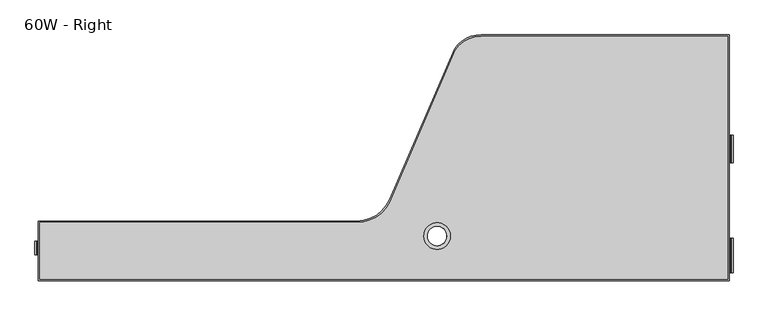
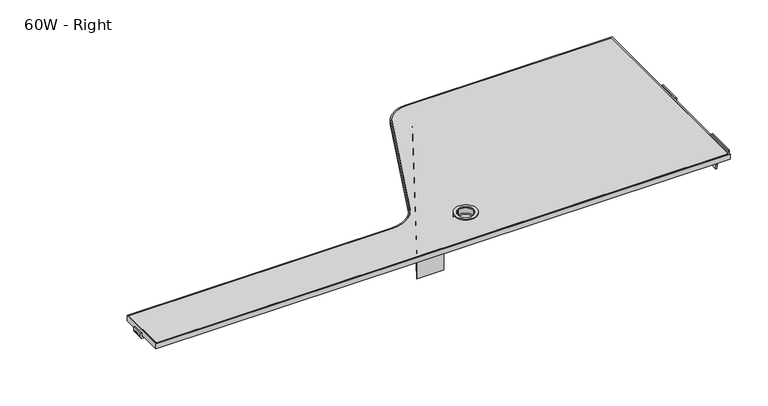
"""IFC4 building model written with IfcOpenShell, lengths in millimetres: furniture geometry, Steelcase Turnstone - Bivi - Table - Dual Top - Upper : 60W - Right."""

from ifc_helpers import new_model, si_unit, point, frame, frame_2d, origin, place, context, project, spatial, polyline, circle_curve, trimmed, segment, composite_curve, outline, extrude, faceted_brep, source, transform, mapped, element, save
from ifc_brep_helpers import plane_surface, cylinder_surface, revolved_surface, advanced_brep


def furniture_60w_right_09d68f9b(model_context):
    return source(origin(), model_context, "Body", "SolidModel", [
        faceted_brep([(899.5366315, -798.3804985, 984.3365257), (899.5366315, -798.3804985, 1041.4865257), (829.8016381, -798.3804985, 1041.4865257), (829.8016381, -798.3804985, 984.3365257), (1094.9332275, -353.2724638, 1039.9118156), (1076.966961, -353.2724638, 1039.9118156), (1076.966961, -353.2724638, 1008.3955413), (1094.9332275, -353.2724638, 1008.3955413), (1094.9332275, -353.2724638, 1007.3133509), (1074.8232345, -353.2724638, 1007.3133509), (1074.8232345, -353.2724638, 1041.4865257), (1094.9332275, -353.2724638, 1041.4865257)], [[[0, 1, 2, 3]], [[4, 5, 6, 7, 8, 9, 10, 11]], [[4, 0, 5]], [[5, 0, 6]], [[8, 0, 3, 9]], [[6, 0, 7]], [[7, 0, 8]], [[9, 3, 2, 10]], [[10, 2, 1, 11]], [[11, 1, 0, 4]]]),
        faceted_brep([(1598.4924133, -298.0312383, 1041.4865257), (1598.4924133, -353.2724638, 1041.4865257), (1598.4924133, -353.2724638, 1010.7646869), (1598.4924133, -337.4886594, 1010.7646869), (1598.4924133, -309.9526244, 1031.5145776), (1598.4924133, -309.9526244, 1040.1793583), (1598.4924133, -298.0312383, 1040.1793583), (1094.9332275, -298.0312383, 1041.4865257), (1094.9332275, -313.0049832, 1041.4865257), (1077.0049901, -353.2724638, 1041.4865257), (1077.0049901, -353.2724638, 1010.7646869), (1084.0323926, -337.4886594, 1010.7646869), (1094.9332275, -313.0049832, 1029.2144603), (1094.9332275, -309.9526244, 1031.5145776), (1094.9332275, -309.9526244, 1040.1793583), (1094.9332275, -298.0312383, 1040.1793583)], [[[0, 1, 2, 3, 4, 5, 6]], [[0, 7, 8, 9, 1]], [[1, 9, 10, 2]], [[2, 10, 11, 3]], [[3, 11, 12, 13, 4]], [[4, 13, 14, 5]], [[5, 14, 15, 6]], [[6, 15, 7, 0]], [[8, 7, 15, 14, 13, 12]], [[12, 11, 10, 9, 8]]]),
        extrude(outline(composite_curve([segment(polyline([(1043.0122331, 146.3611724), (1052.5780574, 146.3611724), (1052.5780574, 143.3229857), (1043.4087962, 143.3229857)]), True, "CONTINUOUS"), segment(trimmed(circle_curve(frame_2d((1043.4087962, 148.5250221)), 5.2020364), [point((1043.4087962, 143.3229857))], [point((1038.2067598, 148.5250221))], False, "CARTESIAN"), True, "CONTINUOUS"), segment(polyline([(1038.2067598, 148.5250221), (1038.2067598, 171.0287862), (1041.2445831, 171.0287862), (1041.2445831, 148.1288223)]), True, "CONTINUOUS"), segment(trimmed(circle_curve(frame_2d((1043.0122331, 148.1288223)), 1.7676499), [point((1041.2445831, 148.1288223))], [point((1043.0122331, 146.3611724))], True, "CARTESIAN"), True, "CONTINUOUS")], self_intersect=False)), frame((0.0, -759.6593832, 0.0), z_axis=(0.0, 1.0, 0.0), x_axis=(0.0, 0.0, 1.0)), (0.0, 0.0, 1.0), 28.5750242),
        extrude(outline(composite_curve([segment(polyline([(153.4, -691.0157049), (829.8016381, -691.0157049)]), True, "CONTINUOUS"), segment(trimmed(circle_curve(frame_2d((829.8016381, -612.4624834)), 78.5532215), [point((829.8016381, -691.0157049))], [point((899.5366315, -648.623779))], True, "CARTESIAN"), True, "CONTINUOUS"), segment(polyline([(899.5366315, -648.623779), (1039.5613504, -323.6592897)]), True, "CONTINUOUS"), segment(trimmed(circle_curve(frame_2d((1094.9332275, -360.8351796)), 66.6940145), [point((1039.5613504, -323.6592897))], [point((1094.9332275, -294.1411651))], False, "CARTESIAN"), True, "CONTINUOUS"), segment(polyline([(1094.9332275, -294.1411651), (1620.25, -294.1411651), (1620.25, -812.4281826), (153.4, -812.4281826), (153.4, -691.0157049)]), True, "CONTINUOUS")], self_intersect=False), holes=[composite_curve([segment(trimmed(circle_curve(frame_2d((1000.2079342, -720.0618051)), 20.4182782), [point((979.789656, -720.0618051))], [point((1020.6262125, -720.0618051))], True, "CARTESIAN"), True, "CONTINUOUS"), segment(trimmed(circle_curve(frame_2d((1000.2079342, -720.0618051)), 20.4182782), [point((1020.6262125, -720.0618051))], [point((979.789656, -720.0618051))], True, "CARTESIAN"), True, "CONTINUOUS")], self_intersect=False)]), frame((0.0, 0.0, 1041.4865257), z_axis=(0.0, 0.0, 1.0), x_axis=(1.0, 0.0, 0.0)), (0.0, 0.0, 1.0), 13.9699806),
        advanced_brep(
        [(1598.4924133, -724.9765806, 1033.5003172), (1598.4924133, -724.9765806, 1035.9407705), (1603.7962259, -724.9765806, 1041.2445831), (1626.6961898, -724.9765806, 1041.2445831), (1628.4638397, -724.9765806, 1043.0122331), (1628.4638397, -724.9765806, 1052.5780574), (1631.5020264, -724.9765806, 1052.5780574), (1631.5020264, -724.9765806, 1043.4087962), (1626.29999, -724.9765806, 1038.2067598), (1603.4572718, -724.9765806, 1038.2067598), (1601.5294373, -724.9765806, 1036.2789253), (1601.5294373, -724.9765806, 1033.5003172), (1601.5294373, -564.321009, 1033.5003172), (1598.4924133, -564.321009, 1033.5003172), (1601.5294373, -564.321009, 1036.2789253), (1603.4572718, -564.321009, 1038.2067598), (1626.29999, -564.321009, 1038.2067598), (1631.5020264, -564.321009, 1043.4087962), (1631.5020264, -564.321009, 1052.5780574), (1628.4638397, -564.321009, 1052.5780574), (1628.4638397, -564.321009, 1043.0122331), (1626.6961898, -564.321009, 1041.2445831), (1603.7962259, -564.321009, 1041.2445831), (1598.4924133, -564.321009, 1035.9407705), (1598.4924133, -505.2663324, 1033.5003172), (1598.4924133, -505.2663324, 1035.9407705), (1603.7962259, -505.2663324, 1041.2445831), (1626.6961898, -505.2663324, 1041.2445831), (1628.4638397, -505.2663324, 1043.0122331), (1628.4638397, -505.2663324, 1052.5780574), (1631.5020264, -505.2663324, 1052.5780574), (1631.5020264, -505.2663324, 1043.4087962), (1626.29999, -505.2663324, 1038.2067598), (1603.4572718, -505.2663324, 1038.2067598), (1601.5294373, -505.2663324, 1036.2789253), (1601.5294373, -505.2663324, 1033.5003172), (1601.5294373, -309.4350479, 1033.5003172), (1598.4924133, -309.4350479, 1033.5003172), (1601.5294373, -798.5617693, 1033.5003172), (1601.5294373, -798.5617693, 1036.2789253), (1603.4572718, -798.5617693, 1038.2067598), (1626.29999, -798.5617693, 1038.2067598), (1631.5020264, -798.5617693, 1043.4087962), (1631.5020264, -798.5617693, 1052.5780574), (1628.4638397, -798.5617693, 1052.5780574), (1628.4638397, -798.5617693, 1043.0122331), (1626.6961898, -798.5617693, 1041.2445831), (1603.7962259, -798.5617693, 1041.2445831), (1598.4924133, -798.5617693, 1035.9407705), (1598.4924133, -798.5617693, 1033.5003172), (1601.5294373, -309.4350479, 1026.050419), (1598.4924133, -309.4350479, 1026.050419), (1601.5294373, -330.4740531, 1010.7646869), (1598.4924133, -330.4740531, 1010.7646869), (1598.4924133, -794.9607992, 1010.7646869), (1601.5294373, -794.9607992, 1010.7646869)],
        [
            (0, 1),
            (1, 2, circle_curve(frame((1603.7962259, -724.9765806, 1035.9407705), z_axis=(0.0, 1.0, 0.0), x_axis=(1.0, 0.0, 0.0)), 5.3038126)),
            (2, 3),
            (3, 4, circle_curve(frame((1626.6961898, -724.9765806, 1043.0122331), z_axis=(0.0, -1.0, 0.0), x_axis=(1.0, 0.0, 0.0)), 1.7676499)),
            (4, 5),
            (5, 6),
            (6, 7),
            (7, 8, circle_curve(frame((1626.29999, -724.9765806, 1043.4087962), z_axis=(0.0, 1.0, 0.0), x_axis=(1.0, 0.0, 0.0)), 5.2020364)),
            (8, 9),
            (9, 10, circle_curve(frame((1603.4572718, -724.9765806, 1036.2789253), z_axis=(0.0, -1.0, 0.0), x_axis=(1.0, 0.0, 0.0)), 1.9278345)),
            (10, 11),
            (11, 0),
            (11, 12),
            (12, 13),
            (13, 0),
            (12, 14),
            (14, 15, circle_curve(frame((1603.4572718, -564.321009, 1036.2789253), z_axis=(0.0, 1.0, 0.0), x_axis=(1.0, 0.0, 0.0)), 1.9278345)),
            (15, 16),
            (16, 17, circle_curve(frame((1626.29999, -564.321009, 1043.4087962), z_axis=(0.0, -1.0, 0.0), x_axis=(1.0, 0.0, 0.0)), 5.2020364)),
            (17, 18),
            (18, 19),
            (19, 20),
            (20, 21, circle_curve(frame((1626.6961898, -564.321009, 1043.0122331), z_axis=(0.0, 1.0, 0.0), x_axis=(1.0, 0.0, 0.0)), 1.7676499)),
            (21, 22),
            (22, 23, circle_curve(frame((1603.7962259, -564.321009, 1035.9407705), z_axis=(0.0, -1.0, 0.0), x_axis=(1.0, 0.0, 0.0)), 5.3038126)),
            (23, 13),
            (24, 25),
            (25, 26, circle_curve(frame((1603.7962259, -505.2663324, 1035.9407705), z_axis=(0.0, 1.0, 0.0), x_axis=(1.0, 0.0, 0.0)), 5.3038126)),
            (26, 27),
            (27, 28, circle_curve(frame((1626.6961898, -505.2663324, 1043.0122331), z_axis=(0.0, -1.0, 0.0), x_axis=(1.0, 0.0, 0.0)), 1.7676499)),
            (28, 29),
            (29, 30),
            (30, 31),
            (31, 32, circle_curve(frame((1626.29999, -505.2663324, 1043.4087962), z_axis=(0.0, 1.0, 0.0), x_axis=(1.0, 0.0, 0.0)), 5.2020364)),
            (32, 33),
            (33, 34, circle_curve(frame((1603.4572718, -505.2663324, 1036.2789253), z_axis=(0.0, -1.0, 0.0), x_axis=(1.0, 0.0, 0.0)), 1.9278345)),
            (34, 35),
            (35, 24),
            (35, 36),
            (36, 37),
            (37, 24),
            (38, 39),
            (39, 40, circle_curve(frame((1603.4572718, -798.5617693, 1036.2789253), z_axis=(0.0, 1.0, 0.0), x_axis=(1.0, 0.0, 0.0)), 1.9278345)),
            (40, 41),
            (41, 42, circle_curve(frame((1626.29999, -798.5617693, 1043.4087962), z_axis=(0.0, -1.0, 0.0), x_axis=(1.0, 0.0, 0.0)), 5.2020364)),
            (42, 43),
            (43, 44),
            (44, 45),
            (45, 46, circle_curve(frame((1626.6961898, -798.5617693, 1043.0122331), z_axis=(0.0, 1.0, 0.0), x_axis=(1.0, 0.0, 0.0)), 1.7676499)),
            (46, 47),
            (47, 48, circle_curve(frame((1603.7962259, -798.5617693, 1035.9407705), z_axis=(0.0, -1.0, 0.0), x_axis=(1.0, 0.0, 0.0)), 5.3038126)),
            (48, 49),
            (49, 38),
            (36, 50),
            (50, 51),
            (51, 37),
            (50, 52),
            (52, 53),
            (53, 51),
            (49, 54),
            (54, 55),
            (55, 38),
            (3, 46),
            (45, 4),
            (27, 21),
            (20, 28),
            (2, 47),
            (26, 22),
            (1, 48),
            (25, 23),
            (53, 54),
            (34, 14),
            (10, 39),
            (55, 52),
            (9, 40),
            (33, 15),
            (8, 41),
            (32, 16),
            (7, 42),
            (31, 17),
            (6, 43),
            (30, 18),
            (5, 44),
            (29, 19),
        ],
        [
            plane_surface(frame((-124.7902, -724.9765806, 1074.5657681), z_axis=(0.0, 1.0, 0.0), x_axis=(1.0, 0.0, 0.0))),
            plane_surface(frame((-124.7902, -724.9765806, 1033.5003172), z_axis=(0.0, 0.0, 1.0), x_axis=(1.0, 0.0, 0.0))),
            plane_surface(frame((-124.7902, -564.321009, 1033.5003172), z_axis=(0.0, -1.0, 0.0), x_axis=(1.0, 0.0, 0.0))),
            plane_surface(frame((-124.7902, -505.2663324, 1074.5657681), z_axis=(0.0, 1.0, 0.0), x_axis=(1.0, 0.0, 0.0))),
            plane_surface(frame((-124.7902, -505.2663324, 1033.5003172), z_axis=(0.0, 0.0, 1.0), x_axis=(1.0, 0.0, 0.0))),
            plane_surface(frame((-124.7902, -798.5617693, 1033.5003172), z_axis=(0.0, -1.0, 0.0), x_axis=(1.0, 0.0, 0.0))),
            plane_surface(frame((-124.7902, -309.4350479, 1033.5003172), z_axis=(0.0, 1.0, 0.0), x_axis=(1.0, 0.0, 0.0))),
            plane_surface(frame((-124.7902, -309.4350479, 1026.050419), z_axis=(0.0, 0.5877852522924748, -0.8090169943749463), x_axis=(1.0, 0.0, 0.0))),
            plane_surface(frame((-124.7902, -791.6082574, 989.5975705), z_axis=(0.0, -0.9876883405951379, -0.1564344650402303), x_axis=(1.0, 0.0, 0.0))),
            revolved_surface(polyline([(1628.4638396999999, -798.5617693, 1043.0122331), (1628.4638396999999, -724.9765806, 1043.0122331)]), (1626.6961898, -815.2221738, 1043.0122331), (0.0, -1.0, 0.0)),
            revolved_surface(polyline([(1628.4638396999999, -564.321009, 1043.0122331), (1628.4638396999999, -505.2663324, 1043.0122331)]), (1626.6961898, -815.2221738, 1043.0122331), (0.0, -1.0, 0.0)),
            plane_surface(frame((1626.6961898, -294.1411651, 1041.2445831), z_axis=(0.0, 0.0, 1.0), x_axis=(0.0, -1.0, 0.0))),
            cylinder_surface(frame((1603.7962259, -815.2221738, 1035.9407705), z_axis=(0.0, 1.0, 0.0), x_axis=(1.0, 0.0, 0.0)), 5.3038126),
            plane_surface(frame((1598.4924133, -294.1411651, 1035.9407705), z_axis=(-1.0, 0.0, 0.0), x_axis=(0.0, -1.0, 0.0))),
            plane_surface(frame((1601.5294373, -294.1411651, 1010.7646869), z_axis=(1.0, 0.0, 0.0), x_axis=(0.0, -1.0, 0.0))),
            revolved_surface(polyline([(1605.3851063, -798.5617693, 1036.2789253), (1605.3851063, -724.9765806, 1036.2789253)]), (1603.4572718, -815.2221738, 1036.2789253), (0.0, -1.0, 0.0)),
            revolved_surface(polyline([(1605.3851063, -564.321009, 1036.2789253), (1605.3851063, -505.2663324, 1036.2789253)]), (1603.4572718, -815.2221738, 1036.2789253), (0.0, -1.0, 0.0)),
            plane_surface(frame((1603.4572718, -294.1411651, 1038.2067598), z_axis=(0.0, 0.0, -1.0), x_axis=(0.0, -1.0, 0.0))),
            cylinder_surface(frame((1626.29999, -815.2221738, 1043.4087962), z_axis=(0.0, 1.0, 0.0), x_axis=(1.0, 0.0, 0.0)), 5.2020364),
            plane_surface(frame((1631.5020264, -294.1411651, 1043.4087962), z_axis=(1.0, 0.0, 0.0), x_axis=(0.0, -1.0, 0.0))),
            plane_surface(frame((1631.5020264, -294.1411651, 1052.5780574), z_axis=(0.0, 0.0, 1.0), x_axis=(0.0, -1.0, 0.0))),
            plane_surface(frame((1628.4638397, -294.1411651, 1052.5780574), z_axis=(-1.0, 0.0, 0.0), x_axis=(0.0, -1.0, 0.0))),
            plane_surface(frame((1598.4924133, -294.1411651, 1010.7646869), z_axis=(0.0, 0.0, -1.0), x_axis=(0.0, -1.0, 0.0))),
        ],
        [
            (0, [[1, 2, 3, 4, 5, 6, 7, 8, 9, 10, 11, 12]]),
            (1, [[13, 14, 15, -12]]),
            (2, [[16, 17, 18, 19, 20, 21, 22, 23, 24, 25, 26, -14]]),
            (3, [[27, 28, 29, 30, 31, 32, 33, 34, 35, 36, 37, 38]]),
            (4, [[39, 40, 41, -38]]),
            (5, [[42, 43, 44, 45, 46, 47, 48, 49, 50, 51, 52, 53]]),
            (6, [[54, 55, 56, -40]]),
            (7, [[57, 58, 59, -55]]),
            (8, [[60, 61, 62, -53]]),
            (9, [[-4, 63, -49, 64]]),
            (10, [[-30, 65, -23, 66]]),
            (11, [[-3, 67, -50, -63]]),
            (11, [[-29, 68, -24, -65]]),
            (12, [[-2, 69, -51, -67]]),
            (12, [[-28, 70, -25, -68]]),
            (13, [[-27, -41, -56, -59, 71, -60, -52, -69, -1, -15, -26, -70]]),
            (14, [[-57, -54, -39, -37, 72, -16, -13, -11, 73, -42, -62, 74]]),
            (15, [[-10, 75, -43, -73]]),
            (16, [[-36, 76, -17, -72]]),
            (17, [[-9, 77, -44, -75]]),
            (17, [[-35, 78, -18, -76]]),
            (18, [[-8, 79, -45, -77]]),
            (18, [[-34, 80, -19, -78]]),
            (19, [[-7, 81, -46, -79]]),
            (19, [[-33, 82, -20, -80]]),
            (20, [[-6, 83, -47, -81]]),
            (20, [[-32, 84, -21, -82]]),
            (21, [[-22, -84, -31, -66]]),
            (21, [[-48, -83, -5, -64]]),
            (22, [[-61, -71, -58, -74]]),
        ],
    ),
        extrude(outline(composite_curve([segment(polyline([(1010.7646869, 1620.25), (1010.7646869, 1623.8059845), (1038.2299042, 1623.8059845)]), True, "CONTINUOUS"), segment(trimmed(circle_curve(frame_2d((1038.2299042, 1620.7911551)), 3.0148294), [point((1038.2299042, 1623.8059845))], [point((1041.2445831, 1620.821279))], False, "CARTESIAN"), True, "CONTINUOUS"), segment(polyline([(1041.2445831, 1620.821279), (1041.2445831, 1603.6140454)]), True, "CONTINUOUS"), segment(trimmed(circle_curve(frame_2d((1036.122951, 1603.6140454)), 5.1216321), [point((1041.2445831, 1603.6140454))], [point((1038.2067598, 1598.9354926))], False, "CARTESIAN"), True, "CONTINUOUS"), segment(polyline([(1038.2067598, 1598.9354926), (1038.2067598, 1620.25), (1010.7646869, 1620.25)]), True, "CONTINUOUS")], self_intersect=False)), frame((0.0, -722.4228657, 0.0), z_axis=(0.0, 1.0, 0.0), x_axis=(0.0, 0.0, 1.0)), (0.0, 0.0, 1.0), 154.8611003),
        extrude(outline(composite_curve([segment(polyline([(150.6059845, -688.2217075), (829.8016381, -688.2217075)]), True, "CONTINUOUS"), segment(trimmed(circle_curve(frame_2d((829.8016381, -612.5678031)), 75.6539045), [point((829.8016381, -688.2217075))], [point((899.5366315, -641.9028326))], True, "CARTESIAN"), True, "CONTINUOUS"), segment(polyline([(899.5366315, -641.9028326), (1037.8058651, -321.0124124)]), True, "CONTINUOUS"), segment(trimmed(circle_curve(frame_2d((1091.7968658, -355.1460501)), 63.8759217), [point((1037.8058651, -321.0124124))], [point((1094.9332275, -291.3471738))], False, "CARTESIAN"), True, "CONTINUOUS"), segment(polyline([(1094.9332275, -291.3471738), (1623.8059845, -291.3471738), (1623.8059845, -815.2221738), (150.6059845, -815.2221738), (150.6059845, -688.2217075)]), True, "CONTINUOUS")], self_intersect=False), holes=[composite_curve([segment(polyline([(1620.25, -812.4281826), (1620.25, -294.1411651), (1094.9332275, -294.1411651)]), True, "CONTINUOUS"), segment(trimmed(circle_curve(frame_2d((1094.9332275, -360.8351796)), 66.6940145), [point((1094.9332275, -294.1411651))], [point((1039.5613504, -323.6592897))], True, "CARTESIAN"), True, "CONTINUOUS"), segment(polyline([(1039.5613504, -323.6592897), (899.5366315, -648.623779)]), True, "CONTINUOUS"), segment(trimmed(circle_curve(frame_2d((829.8016381, -612.4624834)), 78.5532215), [point((899.5366315, -648.623779))], [point((829.8016381, -691.0157049))], False, "CARTESIAN"), True, "CONTINUOUS"), segment(polyline([(829.8016381, -691.0157049), (153.4, -691.0157049), (153.4, -812.4281826), (1620.25, -812.4281826)]), True, "CONTINUOUS")], self_intersect=False)]), frame((0.0, 0.0, 1041.4865257), z_axis=(0.0, 0.0, 1.0), x_axis=(1.0, 0.0, 0.0)), (0.0, 0.0, 1.0), 13.9699806),
        extrude(outline(composite_curve([segment(trimmed(circle_curve(frame_2d((1000.6436852, -720.0618051)), 28.3365682), [point((1028.9802533, -720.0618051))], [point((972.307117, -720.0618051))], False, "CARTESIAN"), True, "CONTINUOUS"), segment(trimmed(circle_curve(frame_2d((1000.6436852, -720.0618051)), 28.3365682), [point((972.307117, -720.0618051))], [point((1028.9802533, -720.0618051))], False, "CARTESIAN"), True, "CONTINUOUS")], self_intersect=False), holes=[composite_curve([segment(trimmed(circle_curve(frame_2d((1000.6436852, -720.0618051)), 20.4182782), [point((1021.0619634, -720.0618051))], [point((980.2254069, -720.0618051))], True, "CARTESIAN"), True, "CONTINUOUS"), segment(trimmed(circle_curve(frame_2d((1000.6436852, -720.0618051)), 20.4182782), [point((980.2254069, -720.0618051))], [point((1021.0619634, -720.0618051))], True, "CARTESIAN"), True, "CONTINUOUS")], self_intersect=False)]), frame((0.0, 0.0, 1036.8869459), z_axis=(0.0, 0.0, 1.0), x_axis=(1.0, 0.0, 0.0)), (0.0, 0.0, 1.0), 21.3373179),
    ])


if __name__ == "__main__":
    model = new_model("IFC4")
    model_context = context("Model", 3, world=origin())
    ifc_project = project(units=[si_unit("LENGTHUNIT", "METRE", prefix="MILLI")], contexts=[model_context])
    site = spatial("IfcSite", under=ifc_project)
    building = spatial("IfcBuilding", under=site)
    placement = place(None, origin())
    furniture_60w_right_shape = furniture_60w_right_09d68f9b(model_context)
    element("IfcFurniture", 1, ObjectType="Steelcase Turnstone - Bivi - Table - Dual Top - Upper : 60W - Right", at=placement, inside=building, context=model_context, shape_type="MappedRepresentation", body=[
        mapped(furniture_60w_right_shape, transform((0.0, 0.0, 0.0), x_axis=(1.0, 0.0, 0.0), y_axis=(0.0, 1.0, 0.0), z_axis=(0.0, 0.0, 1.0))),
    ])
    save(model, "model.ifc")
